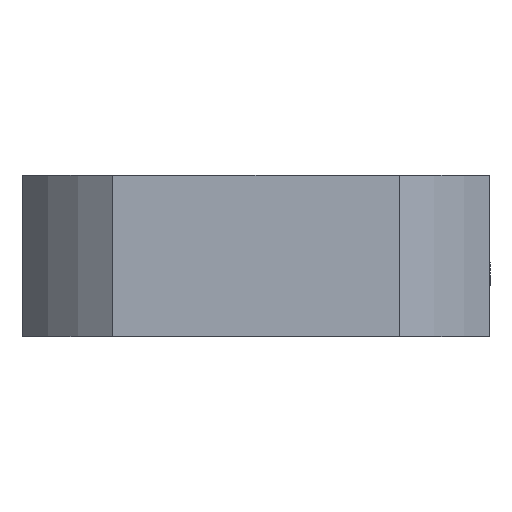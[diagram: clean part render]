
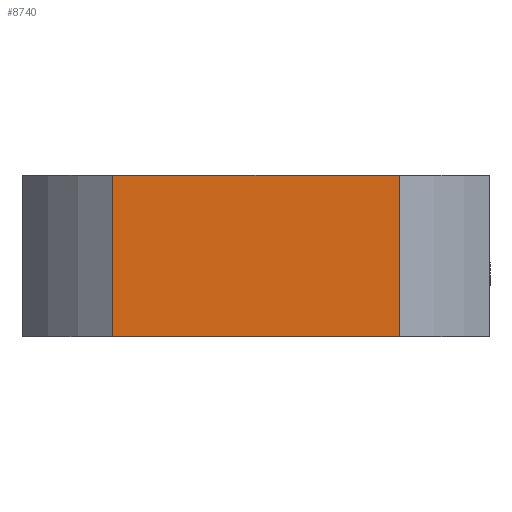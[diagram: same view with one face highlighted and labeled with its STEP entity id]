
A CAD part, top view. The second image highlights one B-rep face of the part: STEP entity #8740.
In plain terms, the highlighted planar face has unit normal (0, 0, 1).
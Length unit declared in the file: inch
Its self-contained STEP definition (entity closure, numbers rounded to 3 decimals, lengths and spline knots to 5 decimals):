
#68 = DIRECTION ( 'NONE',  ( 0., 0., -1. ) ) ;
#656 = DIRECTION ( 'NONE',  ( 0., 1., 0. ) ) ;
#955 = FACE_OUTER_BOUND ( 'NONE', #6619, .T. ) ;
#1209 = AXIS2_PLACEMENT_3D ( 'NONE', #3065, #68, #6354 ) ;
#1443 = DIRECTION ( 'NONE',  ( 1., 0., 0. ) ) ;
#1942 = ORIENTED_EDGE ( 'NONE', *, *, #3431, .T. ) ;
#2293 = CARTESIAN_POINT ( 'NONE',  ( 1.74687, 1.9685, 2.85433 ) ) ;
#2310 = ORIENTED_EDGE ( 'NONE', *, *, #7461, .F. ) ;
#2778 = EDGE_CURVE ( 'NONE', #11874, #8714, #12062, .T. ) ;
#3065 = CARTESIAN_POINT ( 'NONE',  ( -2.85433, 1.9685, 2.85433 ) ) ;
#3138 = CARTESIAN_POINT ( 'NONE',  ( -1.74687, 1.9685, 2.85433 ) ) ;
#3426 = CARTESIAN_POINT ( 'NONE',  ( -2.85433, 0., 2.85433 ) ) ;
#3431 = EDGE_CURVE ( 'NONE', #11874, #9889, #4442, .T. ) ;
#3969 = CARTESIAN_POINT ( 'NONE',  ( 1.74687, 0., 2.85433 ) ) ;
#4011 = VERTEX_POINT ( 'NONE', #2293 ) ;
#4442 = LINE ( 'NONE', #3426, #9978 ) ;
#5908 = CARTESIAN_POINT ( 'NONE',  ( 1.74687, 0., 2.85433 ) ) ;
#6354 = DIRECTION ( 'NONE',  ( -1., 0., 0. ) ) ;
#6429 = VECTOR ( 'NONE', #9317, 39.37008 ) ;
#6619 = EDGE_LOOP ( 'NONE', ( #11935, #1942, #2310, #6899 ) ) ;
#6899 = ORIENTED_EDGE ( 'NONE', *, *, #12437, .F. ) ;
#7461 = EDGE_CURVE ( 'NONE', #4011, #9889, #13318, .T. ) ;
#7930 = CARTESIAN_POINT ( 'NONE',  ( -2.85433, 1.9685, 2.85433 ) ) ;
#7997 = CARTESIAN_POINT ( 'NONE',  ( -1.74687, 0., 2.85433 ) ) ;
#8421 = VECTOR ( 'NONE', #656, 39.37008 ) ;
#8714 = VERTEX_POINT ( 'NONE', #3138 ) ;
#8740 = ADVANCED_FACE ( 'NONE', ( #955 ), #12567, .F. ) ;
#8814 = VECTOR ( 'NONE', #12747, 39.37008 ) ;
#9317 = DIRECTION ( 'NONE',  ( 0., -1., 0. ) ) ;
#9889 = VERTEX_POINT ( 'NONE', #5908 ) ;
#9978 = VECTOR ( 'NONE', #1443, 39.37008 ) ;
#11202 = CARTESIAN_POINT ( 'NONE',  ( -1.74687, 0., 2.85433 ) ) ;
#11651 = LINE ( 'NONE', #7930, #8814 ) ;
#11874 = VERTEX_POINT ( 'NONE', #11202 ) ;
#11935 = ORIENTED_EDGE ( 'NONE', *, *, #2778, .F. ) ;
#12062 = LINE ( 'NONE', #7997, #8421 ) ;
#12437 = EDGE_CURVE ( 'NONE', #8714, #4011, #11651, .T. ) ;
#12567 = PLANE ( 'NONE',  #1209 ) ;
#12747 = DIRECTION ( 'NONE',  ( 1., 0., 0. ) ) ;
#13318 = LINE ( 'NONE', #3969, #6429 ) ;
